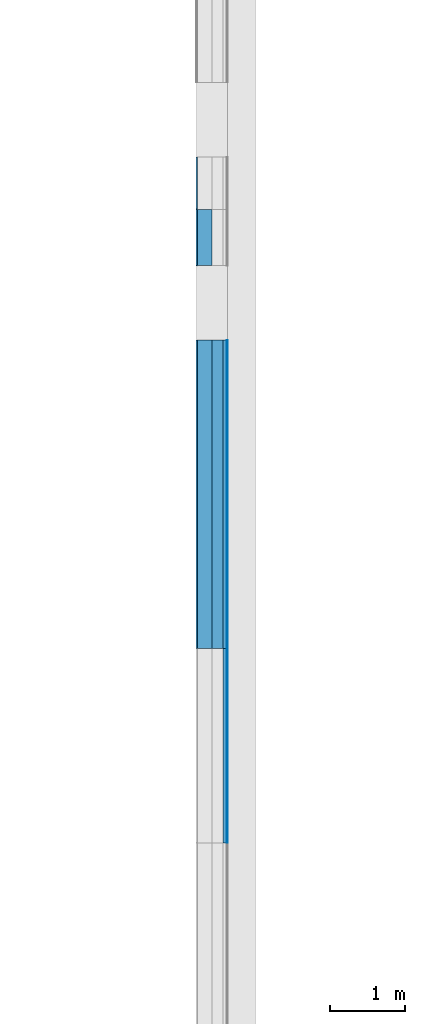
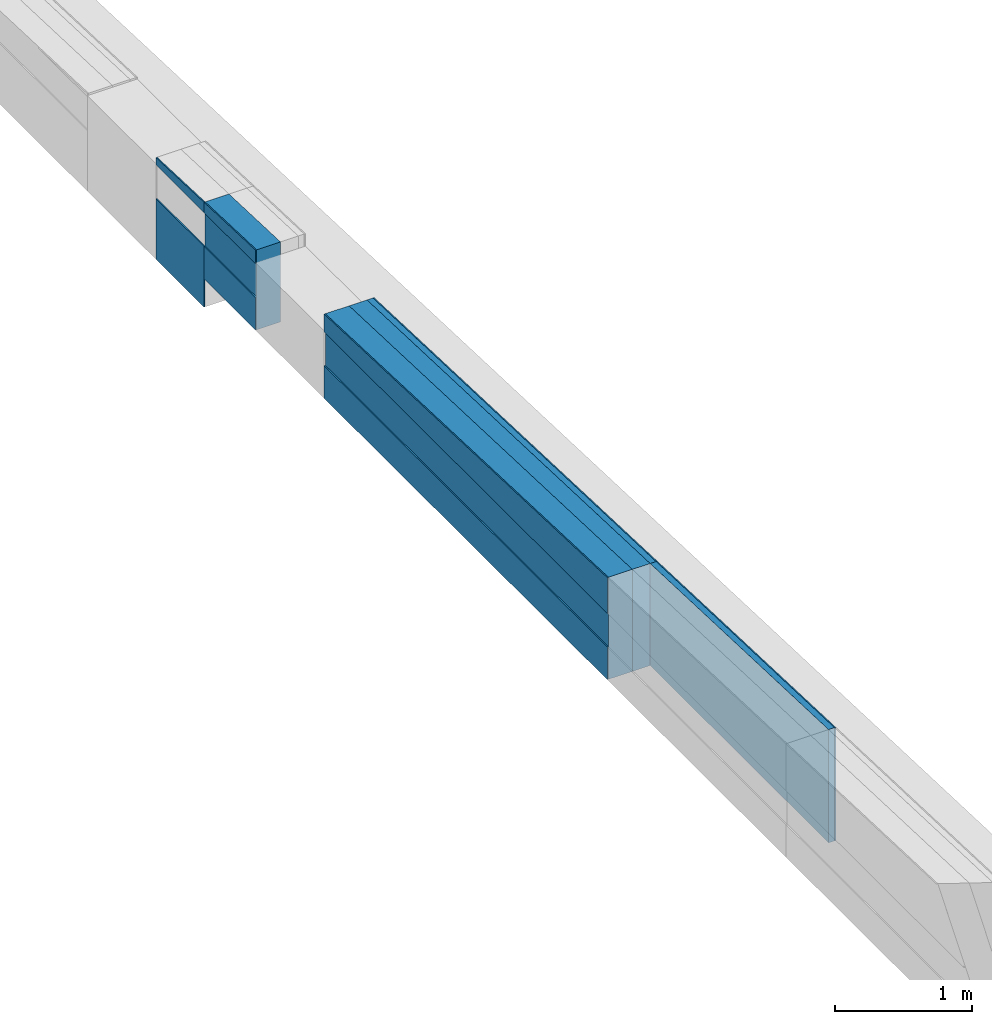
# One storey, part 8 of 17: 10 building element parts, 4 elements without a shape of their own.
"""IFC2X3 building model written with IfcOpenShell, lengths in millimetres."""

from ifc_helpers import new_model, entity, si_unit, converted_unit, derived_unit, money_unit, direction, frame, origin_with_axes, place, context, subcontext, project, spatial, polyline, outline, extrude, boolean, faceted_brep, material, type_object, element, aggregate, save


model = new_model("IFC2X3")

# Units and contexts
model_context = context("Model", 3, precision=0.01, world=origin_with_axes(), true_north=direction((0.0, 1.0)))
body_context = subcontext(model_context, "Body", "Model", "MODEL_VIEW")
ifc_project = project(units=[si_unit("LENGTHUNIT", "METRE", prefix="MILLI"), si_unit("AREAUNIT", "SQUARE_METRE"), si_unit("VOLUMEUNIT", "CUBIC_METRE"), converted_unit("PLANEANGLEUNIT", "DEGREE", entity("IfcPlaneAngleMeasure", 0.0174532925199), si_unit("PLANEANGLEUNIT", "RADIAN"), dimensions=[0, 0, 0, 0, 0, 0, 0]), si_unit("SOLIDANGLEUNIT", "STERADIAN"), money_unit("EUR"), converted_unit("TIMEUNIT", "Year", entity("IfcTimeMeasure", 31556926.0), si_unit("TIMEUNIT", "SECOND"), dimensions=[0, 0, 1, 0, 0, 0, 0]), si_unit("MASSUNIT", "GRAM", prefix="KILO"), si_unit("THERMODYNAMICTEMPERATUREUNIT", "DEGREE_CELSIUS"), si_unit("LUMINOUSINTENSITYUNIT", "LUMEN"), si_unit("ENERGYUNIT", "JOULE", prefix="MEGA"), derived_unit("THERMALCONDUCTANCEUNIT", [(si_unit("POWERUNIT", "WATT"), 1), (si_unit("LENGTHUNIT", "METRE"), -1), (si_unit("THERMODYNAMICTEMPERATUREUNIT", "KELVIN"), -1)]), derived_unit("SPECIFICHEATCAPACITYUNIT", [(si_unit("ENERGYUNIT", "JOULE"), 1), (si_unit("MASSUNIT", "GRAM", prefix="KILO"), -1), (si_unit("THERMODYNAMICTEMPERATUREUNIT", "KELVIN"), -1)]), derived_unit("MASSDENSITYUNIT", [(si_unit("MASSUNIT", "GRAM", prefix="KILO"), 1), (si_unit("VOLUMEUNIT", "CUBIC_METRE"), -1)])], contexts=[model_context])

# Site, building, storey
site_placement = place(None, origin_with_axes())
site = spatial("IfcSite", under=ifc_project, at=site_placement, Name="Puškini 31, Narva", CompositionType="ELEMENT")
building_placement = place(site_placement, origin_with_axes())
building = spatial("IfcBuilding", under=site, at=building_placement, Name="Narva Riigigümnaasium", CompositionType="ELEMENT")
storey_placement = place(building_placement, frame((0.0, 0.0, -6800.0), z_axis=(0.0, 0.0, 1.0), x_axis=(1.0, 0.0, 0.0)))
storey = spatial("IfcBuildingStorey", under=building, at=storey_placement, Name="0.korrus -6.8", CompositionType="ELEMENT", Elevation=-6800.0)

# Wall, building element parts
wall_type = type_object("IfcWallType", Name="G-VS-02 420", PredefinedType="NOTDEFINED")
wall_1_placement = place(storey_placement, frame((54200.000001, 164985.151272, 4880.0), z_axis=(0.0, 0.0, 1.0), x_axis=(0.0, -1.0, 0.0)))
wall_1 = element("IfcWall", 1, at=wall_1_placement, inside=storey, type_object=wall_type, Name="Sisesein")
ifc_material_1 = material(Name="Salto-PIR soojustus")
building_element_part_1_placement = place(wall_1_placement, origin_with_axes())
building_element_part_1 = element("IfcBuildingElementPart", 2, at=building_element_part_1_placement, material=ifc_material_1, Name="Salto-PIR soojustus", context=body_context, shape_type="CSG", body=[
    boolean("DIFFERENCE", boolean("DIFFERENCE", boolean("DIFFERENCE", boolean("DIFFERENCE", boolean("DIFFERENCE", boolean("DIFFERENCE", extrude(outline(polyline([(0.0, 150.0), (2600.0, 150.0), (2600.0, 200.0), (0.0, 200.0), (0.0, 150.0)])), origin_with_axes(), (0.0, 0.0, 1.0), 1045.10193144), faceted_brep([(0.0, -200.0, 590.0), (2600.0, -200.0, 590.0), (2600.0, -200.0, 290.0), (0.0, -200.0, 290.0), (0.0, -210.0, 590.0), (2600.0, -210.0, 590.0), (2600.0, -210.0, 290.0), (0.0, -210.0, 290.0)], [[[0, 1, 2, 3]], [[1, 0, 4, 5]], [[1, 5, 6, 2]], [[7, 3, 2, 6]], [[4, 0, 3, 7]], [[5, 4, 7, 6]]])), faceted_brep([(2600.0, -200.0, 1006.91214492), (0.0, -200.0, 907.384814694), (0.0, -200.0, 1045.10193144), (2600.0, -200.0, 1045.10193144), (0.0, -210.0, 907.384814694), (2600.0, -210.0, 1006.91214492), (0.0, -210.0, 1045.10193144), (2600.0, -210.0, 1045.10193144)], [[[0, 1, 2, 3]], [[4, 1, 0, 5]], [[1, 4, 6, 2]], [[2, 6, 7, 3]], [[5, 0, 3, 7]], [[4, 5, 7, 6]]])), faceted_brep([(2600.0, 0.0, 1006.91214492), (0.0, 0.0, 907.384814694), (0.0, 0.0, 1045.10193144), (2600.0, 0.0, 1045.10193144), (0.0, -200.0, 907.384814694), (2600.0, -200.0, 1006.91214492), (0.0, -200.0, 1045.10193144), (2600.0, -200.0, 1045.10193144)], [[[0, 1, 2, 3]], [[4, 1, 0, 5]], [[1, 4, 6, 2]], [[2, 6, 7, 3]], [[5, 0, 3, 7]], [[4, 5, 7, 6]]])), faceted_brep([(2600.0, 150.0, 1006.91214492), (0.0, 150.0, 907.384814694), (0.0, 150.0, 1045.10193144), (2600.0, 150.0, 1045.10193144), (0.0, 0.0, 907.384814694), (2600.0, 0.0, 1006.91214492), (0.0, 0.0, 1045.10193144), (2600.0, 0.0, 1045.10193144)], [[[0, 1, 2, 3]], [[4, 1, 0, 5]], [[1, 4, 6, 2]], [[2, 6, 7, 3]], [[5, 0, 3, 7]], [[4, 5, 7, 6]]])), faceted_brep([(2600.0, 200.0, 1006.91214492), (0.0, 200.0, 907.384814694), (0.0, 200.0, 1045.10193144), (2600.0, 200.0, 1045.10193144), (0.0, 150.0, 907.384814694), (2600.0, 150.0, 1006.91214492), (0.0, 150.0, 1045.10193144), (2600.0, 150.0, 1045.10193144)], [[[0, 1, 2, 3]], [[4, 1, 0, 5]], [[1, 4, 6, 2]], [[2, 6, 7, 3]], [[5, 0, 3, 7]], [[4, 5, 7, 6]]])), faceted_brep([(2600.0, 210.0, 1006.91214492), (0.0, 210.0, 907.384814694), (0.0, 210.0, 1045.10193144), (2600.0, 210.0, 1045.10193144), (0.0, 200.0, 907.384814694), (2600.0, 200.0, 1006.91214492), (0.0, 200.0, 1045.10193144), (2600.0, 200.0, 1045.10193144)], [[[0, 1, 2, 3]], [[4, 1, 0, 5]], [[1, 4, 6, 2]], [[2, 6, 7, 3]], [[5, 0, 3, 7]], [[4, 5, 7, 6]]])),
])
ifc_material_2 = material(Name="Krohv")
building_element_part_2_placement = place(wall_1_placement, origin_with_axes())
building_element_part_2 = element("IfcBuildingElementPart", 3, at=building_element_part_2_placement, material=ifc_material_2, Name="Krohv", context=body_context, shape_type="CSG", body=[
    boolean("DIFFERENCE", boolean("DIFFERENCE", boolean("DIFFERENCE", boolean("DIFFERENCE", boolean("DIFFERENCE", boolean("DIFFERENCE", extrude(outline(polyline([(0.0, 200.0), (2600.0, 200.0), (2600.0, 210.0), (0.0, 210.0), (0.0, 200.0)])), origin_with_axes(), (0.0, 0.0, 1.0), 1045.10193144), faceted_brep([(0.0, -200.0, 590.0), (2600.0, -200.0, 590.0), (2600.0, -200.0, 290.0), (0.0, -200.0, 290.0), (0.0, -210.0, 590.0), (2600.0, -210.0, 590.0), (2600.0, -210.0, 290.0), (0.0, -210.0, 290.0)], [[[0, 1, 2, 3]], [[1, 0, 4, 5]], [[1, 5, 6, 2]], [[7, 3, 2, 6]], [[4, 0, 3, 7]], [[5, 4, 7, 6]]])), faceted_brep([(2600.0, -200.0, 1006.91214492), (0.0, -200.0, 907.384814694), (0.0, -200.0, 1045.10193144), (2600.0, -200.0, 1045.10193144), (0.0, -210.0, 907.384814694), (2600.0, -210.0, 1006.91214492), (0.0, -210.0, 1045.10193144), (2600.0, -210.0, 1045.10193144)], [[[0, 1, 2, 3]], [[4, 1, 0, 5]], [[1, 4, 6, 2]], [[2, 6, 7, 3]], [[5, 0, 3, 7]], [[4, 5, 7, 6]]])), faceted_brep([(2600.0, 0.0, 1006.91214492), (0.0, 0.0, 907.384814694), (0.0, 0.0, 1045.10193144), (2600.0, 0.0, 1045.10193144), (0.0, -200.0, 907.384814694), (2600.0, -200.0, 1006.91214492), (0.0, -200.0, 1045.10193144), (2600.0, -200.0, 1045.10193144)], [[[0, 1, 2, 3]], [[4, 1, 0, 5]], [[1, 4, 6, 2]], [[2, 6, 7, 3]], [[5, 0, 3, 7]], [[4, 5, 7, 6]]])), faceted_brep([(2600.0, 150.0, 1006.91214492), (0.0, 150.0, 907.384814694), (0.0, 150.0, 1045.10193144), (2600.0, 150.0, 1045.10193144), (0.0, 0.0, 907.384814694), (2600.0, 0.0, 1006.91214492), (0.0, 0.0, 1045.10193144), (2600.0, 0.0, 1045.10193144)], [[[0, 1, 2, 3]], [[4, 1, 0, 5]], [[1, 4, 6, 2]], [[2, 6, 7, 3]], [[5, 0, 3, 7]], [[4, 5, 7, 6]]])), faceted_brep([(2600.0, 200.0, 1006.91214492), (0.0, 200.0, 907.384814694), (0.0, 200.0, 1045.10193144), (2600.0, 200.0, 1045.10193144), (0.0, 150.0, 907.384814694), (2600.0, 150.0, 1006.91214492), (0.0, 150.0, 1045.10193144), (2600.0, 150.0, 1045.10193144)], [[[0, 1, 2, 3]], [[4, 1, 0, 5]], [[1, 4, 6, 2]], [[2, 6, 7, 3]], [[5, 0, 3, 7]], [[4, 5, 7, 6]]])), faceted_brep([(2600.0, 210.0, 1006.91214492), (0.0, 210.0, 907.384814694), (0.0, 210.0, 1045.10193144), (2600.0, 210.0, 1045.10193144), (0.0, 200.0, 907.384814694), (2600.0, 200.0, 1006.91214492), (0.0, 200.0, 1045.10193144), (2600.0, 200.0, 1045.10193144)], [[[0, 1, 2, 3]], [[4, 1, 0, 5]], [[1, 4, 6, 2]], [[2, 6, 7, 3]], [[5, 0, 3, 7]], [[4, 5, 7, 6]]])),
])
aggregate(wall_1, [building_element_part_1, building_element_part_2])

wall_2_placement = place(storey_placement, frame((54200.000001, 169110.151272, 4880.0), z_axis=(0.0, 0.0, 1.0), x_axis=(0.0, -1.0, 0.0)))
wall_2 = element("IfcWall", 4, at=wall_2_placement, inside=storey, type_object=wall_type, Name="Sisesein")
ifc_material_3 = material(Name="Salto-siseviimistlus")
building_element_part_3_placement = place(wall_2_placement, origin_with_axes())
building_element_part_3 = element("IfcBuildingElementPart", 5, at=building_element_part_3_placement, material=ifc_material_3, Name="Salto-siseviimistlus", context=body_context, shape_type="CSG", body=[
    boolean("DIFFERENCE", boolean("DIFFERENCE", boolean("DIFFERENCE", boolean("DIFFERENCE", boolean("DIFFERENCE", boolean("DIFFERENCE", extrude(outline(polyline([(0.0, -210.0), (4125.0, -210.0), (4125.0, -200.0), (0.0, -200.0), (0.0, -210.0)])), origin_with_axes(), (0.0, 0.0, 1.0), 942.518463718), faceted_brep([(0.0, -200.0, 590.0), (4125.0, -200.0, 590.0), (4125.0, -200.0, 290.0), (0.0, -200.0, 290.0), (0.0, -210.0, 590.0), (4125.0, -210.0, 590.0), (4125.0, -210.0, 290.0), (0.0, -210.0, 290.0)], [[[0, 1, 2, 3]], [[1, 0, 4, 5]], [[1, 5, 6, 2]], [[7, 3, 2, 6]], [[4, 0, 3, 7]], [[5, 4, 7, 6]]])), faceted_brep([(4125.0, -200.0, 907.384814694), (0.0, -200.0, 749.480877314), (0.0, -200.0, 942.518463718), (4125.0, -200.0, 942.518463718), (0.0, -210.0, 749.480877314), (4125.0, -210.0, 907.384814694), (0.0, -210.0, 942.518463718), (4125.0, -210.0, 942.518463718)], [[[0, 1, 2, 3]], [[4, 1, 0, 5]], [[1, 4, 6, 2]], [[2, 6, 7, 3]], [[5, 0, 3, 7]], [[4, 5, 7, 6]]])), faceted_brep([(4125.0, 0.0, 907.384814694), (0.0, 0.0, 749.480877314), (0.0, 0.0, 942.518463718), (4125.0, 0.0, 942.518463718), (0.0, -200.0, 749.480877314), (4125.0, -200.0, 907.384814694), (0.0, -200.0, 942.518463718), (4125.0, -200.0, 942.518463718)], [[[0, 1, 2, 3]], [[4, 1, 0, 5]], [[1, 4, 6, 2]], [[2, 6, 7, 3]], [[5, 0, 3, 7]], [[4, 5, 7, 6]]])), faceted_brep([(4125.0, 150.0, 907.384814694), (0.0, 150.0, 749.480877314), (0.0, 150.0, 942.518463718), (4125.0, 150.0, 942.518463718), (0.0, 0.0, 749.480877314), (4125.0, 0.0, 907.384814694), (0.0, 0.0, 942.518463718), (4125.0, 0.0, 942.518463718)], [[[0, 1, 2, 3]], [[4, 1, 0, 5]], [[1, 4, 6, 2]], [[2, 6, 7, 3]], [[5, 0, 3, 7]], [[4, 5, 7, 6]]])), faceted_brep([(4125.0, 200.0, 907.384814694), (0.0, 200.0, 749.480877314), (0.0, 200.0, 942.518463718), (4125.0, 200.0, 942.518463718), (0.0, 150.0, 749.480877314), (4125.0, 150.0, 907.384814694), (0.0, 150.0, 942.518463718), (4125.0, 150.0, 942.518463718)], [[[0, 1, 2, 3]], [[4, 1, 0, 5]], [[1, 4, 6, 2]], [[2, 6, 7, 3]], [[5, 0, 3, 7]], [[4, 5, 7, 6]]])), faceted_brep([(4125.0, 210.0, 907.384814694), (0.0, 210.0, 749.480877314), (0.0, 210.0, 942.518463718), (4125.0, 210.0, 942.518463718), (0.0, 200.0, 749.480877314), (4125.0, 200.0, 907.384814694), (0.0, 200.0, 942.518463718), (4125.0, 200.0, 942.518463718)], [[[0, 1, 2, 3]], [[4, 1, 0, 5]], [[1, 4, 6, 2]], [[2, 6, 7, 3]], [[5, 0, 3, 7]], [[4, 5, 7, 6]]])),
])
ifc_material_4 = material(Name="Betoon element")
building_element_part_4_placement = place(wall_2_placement, origin_with_axes())
building_element_part_4 = element("IfcBuildingElementPart", 6, at=building_element_part_4_placement, material=ifc_material_4, Name="Betoon element", context=body_context, shape_type="CSG", body=[
    boolean("DIFFERENCE", boolean("DIFFERENCE", boolean("DIFFERENCE", boolean("DIFFERENCE", boolean("DIFFERENCE", boolean("DIFFERENCE", extrude(outline(polyline([(0.0, -200.0), (4125.0, -200.0), (4125.0, 0.0), (0.0, 0.0), (0.0, -200.0)])), origin_with_axes(), (0.0, 0.0, 1.0), 942.518463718), faceted_brep([(0.0, -200.0, 590.0), (4125.0, -200.0, 590.0), (4125.0, -200.0, 290.0), (0.0, -200.0, 290.0), (0.0, -210.0, 590.0), (4125.0, -210.0, 590.0), (4125.0, -210.0, 290.0), (0.0, -210.0, 290.0)], [[[0, 1, 2, 3]], [[1, 0, 4, 5]], [[1, 5, 6, 2]], [[7, 3, 2, 6]], [[4, 0, 3, 7]], [[5, 4, 7, 6]]])), faceted_brep([(4125.0, -200.0, 907.384814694), (0.0, -200.0, 749.480877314), (0.0, -200.0, 942.518463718), (4125.0, -200.0, 942.518463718), (0.0, -210.0, 749.480877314), (4125.0, -210.0, 907.384814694), (0.0, -210.0, 942.518463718), (4125.0, -210.0, 942.518463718)], [[[0, 1, 2, 3]], [[4, 1, 0, 5]], [[1, 4, 6, 2]], [[2, 6, 7, 3]], [[5, 0, 3, 7]], [[4, 5, 7, 6]]])), faceted_brep([(4125.0, 0.0, 907.384814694), (0.0, 0.0, 749.480877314), (0.0, 0.0, 942.518463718), (4125.0, 0.0, 942.518463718), (0.0, -200.0, 749.480877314), (4125.0, -200.0, 907.384814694), (0.0, -200.0, 942.518463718), (4125.0, -200.0, 942.518463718)], [[[0, 1, 2, 3]], [[4, 1, 0, 5]], [[1, 4, 6, 2]], [[2, 6, 7, 3]], [[5, 0, 3, 7]], [[4, 5, 7, 6]]])), faceted_brep([(4125.0, 150.0, 907.384814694), (0.0, 150.0, 749.480877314), (0.0, 150.0, 942.518463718), (4125.0, 150.0, 942.518463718), (0.0, 0.0, 749.480877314), (4125.0, 0.0, 907.384814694), (0.0, 0.0, 942.518463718), (4125.0, 0.0, 942.518463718)], [[[0, 1, 2, 3]], [[4, 1, 0, 5]], [[1, 4, 6, 2]], [[2, 6, 7, 3]], [[5, 0, 3, 7]], [[4, 5, 7, 6]]])), faceted_brep([(4125.0, 200.0, 907.384814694), (0.0, 200.0, 749.480877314), (0.0, 200.0, 942.518463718), (4125.0, 200.0, 942.518463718), (0.0, 150.0, 749.480877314), (4125.0, 150.0, 907.384814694), (0.0, 150.0, 942.518463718), (4125.0, 150.0, 942.518463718)], [[[0, 1, 2, 3]], [[4, 1, 0, 5]], [[1, 4, 6, 2]], [[2, 6, 7, 3]], [[5, 0, 3, 7]], [[4, 5, 7, 6]]])), faceted_brep([(4125.0, 210.0, 907.384814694), (0.0, 210.0, 749.480877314), (0.0, 210.0, 942.518463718), (4125.0, 210.0, 942.518463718), (0.0, 200.0, 749.480877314), (4125.0, 200.0, 907.384814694), (0.0, 200.0, 942.518463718), (4125.0, 200.0, 942.518463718)], [[[0, 1, 2, 3]], [[4, 1, 0, 5]], [[1, 4, 6, 2]], [[2, 6, 7, 3]], [[5, 0, 3, 7]], [[4, 5, 7, 6]]])),
])
building_element_part_5_placement = place(wall_2_placement, origin_with_axes())
building_element_part_5 = element("IfcBuildingElementPart", 7, at=building_element_part_5_placement, material=ifc_material_1, Name="Salto-PIR soojustus", context=body_context, shape_type="CSG", body=[
    boolean("DIFFERENCE", boolean("DIFFERENCE", boolean("DIFFERENCE", boolean("DIFFERENCE", boolean("DIFFERENCE", boolean("DIFFERENCE", extrude(outline(polyline([(0.0, 0.0), (4125.0, 0.0), (4125.0, 150.0), (0.0, 150.0), (0.0, 0.0)])), origin_with_axes(), (0.0, 0.0, 1.0), 942.518463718), faceted_brep([(0.0, -200.0, 590.0), (4125.0, -200.0, 590.0), (4125.0, -200.0, 290.0), (0.0, -200.0, 290.0), (0.0, -210.0, 590.0), (4125.0, -210.0, 590.0), (4125.0, -210.0, 290.0), (0.0, -210.0, 290.0)], [[[0, 1, 2, 3]], [[1, 0, 4, 5]], [[1, 5, 6, 2]], [[7, 3, 2, 6]], [[4, 0, 3, 7]], [[5, 4, 7, 6]]])), faceted_brep([(4125.0, -200.0, 907.384814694), (0.0, -200.0, 749.480877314), (0.0, -200.0, 942.518463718), (4125.0, -200.0, 942.518463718), (0.0, -210.0, 749.480877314), (4125.0, -210.0, 907.384814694), (0.0, -210.0, 942.518463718), (4125.0, -210.0, 942.518463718)], [[[0, 1, 2, 3]], [[4, 1, 0, 5]], [[1, 4, 6, 2]], [[2, 6, 7, 3]], [[5, 0, 3, 7]], [[4, 5, 7, 6]]])), faceted_brep([(4125.0, 0.0, 907.384814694), (0.0, 0.0, 749.480877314), (0.0, 0.0, 942.518463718), (4125.0, 0.0, 942.518463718), (0.0, -200.0, 749.480877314), (4125.0, -200.0, 907.384814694), (0.0, -200.0, 942.518463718), (4125.0, -200.0, 942.518463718)], [[[0, 1, 2, 3]], [[4, 1, 0, 5]], [[1, 4, 6, 2]], [[2, 6, 7, 3]], [[5, 0, 3, 7]], [[4, 5, 7, 6]]])), faceted_brep([(4125.0, 150.0, 907.384814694), (0.0, 150.0, 749.480877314), (0.0, 150.0, 942.518463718), (4125.0, 150.0, 942.518463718), (0.0, 0.0, 749.480877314), (4125.0, 0.0, 907.384814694), (0.0, 0.0, 942.518463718), (4125.0, 0.0, 942.518463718)], [[[0, 1, 2, 3]], [[4, 1, 0, 5]], [[1, 4, 6, 2]], [[2, 6, 7, 3]], [[5, 0, 3, 7]], [[4, 5, 7, 6]]])), faceted_brep([(4125.0, 200.0, 907.384814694), (0.0, 200.0, 749.480877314), (0.0, 200.0, 942.518463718), (4125.0, 200.0, 942.518463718), (0.0, 150.0, 749.480877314), (4125.0, 150.0, 907.384814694), (0.0, 150.0, 942.518463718), (4125.0, 150.0, 942.518463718)], [[[0, 1, 2, 3]], [[4, 1, 0, 5]], [[1, 4, 6, 2]], [[2, 6, 7, 3]], [[5, 0, 3, 7]], [[4, 5, 7, 6]]])), faceted_brep([(4125.0, 210.0, 907.384814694), (0.0, 210.0, 749.480877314), (0.0, 210.0, 942.518463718), (4125.0, 210.0, 942.518463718), (0.0, 200.0, 749.480877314), (4125.0, 200.0, 907.384814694), (0.0, 200.0, 942.518463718), (4125.0, 200.0, 942.518463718)], [[[0, 1, 2, 3]], [[4, 1, 0, 5]], [[1, 4, 6, 2]], [[2, 6, 7, 3]], [[5, 0, 3, 7]], [[4, 5, 7, 6]]])),
])
building_element_part_6_placement = place(wall_2_placement, origin_with_axes())
building_element_part_6 = element("IfcBuildingElementPart", 8, at=building_element_part_6_placement, material=ifc_material_1, Name="Salto-PIR soojustus", context=body_context, shape_type="CSG", body=[
    boolean("DIFFERENCE", boolean("DIFFERENCE", boolean("DIFFERENCE", boolean("DIFFERENCE", boolean("DIFFERENCE", boolean("DIFFERENCE", extrude(outline(polyline([(0.0, 150.0), (4125.0, 150.0), (4125.0, 200.0), (0.0, 200.0), (0.0, 150.0)])), origin_with_axes(), (0.0, 0.0, 1.0), 942.518463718), faceted_brep([(0.0, -200.0, 590.0), (4125.0, -200.0, 590.0), (4125.0, -200.0, 290.0), (0.0, -200.0, 290.0), (0.0, -210.0, 590.0), (4125.0, -210.0, 590.0), (4125.0, -210.0, 290.0), (0.0, -210.0, 290.0)], [[[0, 1, 2, 3]], [[1, 0, 4, 5]], [[1, 5, 6, 2]], [[7, 3, 2, 6]], [[4, 0, 3, 7]], [[5, 4, 7, 6]]])), faceted_brep([(4125.0, -200.0, 907.384814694), (0.0, -200.0, 749.480877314), (0.0, -200.0, 942.518463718), (4125.0, -200.0, 942.518463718), (0.0, -210.0, 749.480877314), (4125.0, -210.0, 907.384814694), (0.0, -210.0, 942.518463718), (4125.0, -210.0, 942.518463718)], [[[0, 1, 2, 3]], [[4, 1, 0, 5]], [[1, 4, 6, 2]], [[2, 6, 7, 3]], [[5, 0, 3, 7]], [[4, 5, 7, 6]]])), faceted_brep([(4125.0, 0.0, 907.384814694), (0.0, 0.0, 749.480877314), (0.0, 0.0, 942.518463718), (4125.0, 0.0, 942.518463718), (0.0, -200.0, 749.480877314), (4125.0, -200.0, 907.384814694), (0.0, -200.0, 942.518463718), (4125.0, -200.0, 942.518463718)], [[[0, 1, 2, 3]], [[4, 1, 0, 5]], [[1, 4, 6, 2]], [[2, 6, 7, 3]], [[5, 0, 3, 7]], [[4, 5, 7, 6]]])), faceted_brep([(4125.0, 150.0, 907.384814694), (0.0, 150.0, 749.480877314), (0.0, 150.0, 942.518463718), (4125.0, 150.0, 942.518463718), (0.0, 0.0, 749.480877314), (4125.0, 0.0, 907.384814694), (0.0, 0.0, 942.518463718), (4125.0, 0.0, 942.518463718)], [[[0, 1, 2, 3]], [[4, 1, 0, 5]], [[1, 4, 6, 2]], [[2, 6, 7, 3]], [[5, 0, 3, 7]], [[4, 5, 7, 6]]])), faceted_brep([(4125.0, 200.0, 907.384814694), (0.0, 200.0, 749.480877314), (0.0, 200.0, 942.518463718), (4125.0, 200.0, 942.518463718), (0.0, 150.0, 749.480877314), (4125.0, 150.0, 907.384814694), (0.0, 150.0, 942.518463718), (4125.0, 150.0, 942.518463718)], [[[0, 1, 2, 3]], [[4, 1, 0, 5]], [[1, 4, 6, 2]], [[2, 6, 7, 3]], [[5, 0, 3, 7]], [[4, 5, 7, 6]]])), faceted_brep([(4125.0, 210.0, 907.384814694), (0.0, 210.0, 749.480877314), (0.0, 210.0, 942.518463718), (4125.0, 210.0, 942.518463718), (0.0, 200.0, 749.480877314), (4125.0, 200.0, 907.384814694), (0.0, 200.0, 942.518463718), (4125.0, 200.0, 942.518463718)], [[[0, 1, 2, 3]], [[4, 1, 0, 5]], [[1, 4, 6, 2]], [[2, 6, 7, 3]], [[5, 0, 3, 7]], [[4, 5, 7, 6]]])),
])
building_element_part_7_placement = place(wall_2_placement, origin_with_axes())
building_element_part_7 = element("IfcBuildingElementPart", 9, at=building_element_part_7_placement, material=ifc_material_2, Name="Krohv", context=body_context, shape_type="CSG", body=[
    boolean("DIFFERENCE", boolean("DIFFERENCE", boolean("DIFFERENCE", boolean("DIFFERENCE", boolean("DIFFERENCE", boolean("DIFFERENCE", extrude(outline(polyline([(0.0, 200.0), (4125.0, 200.0), (4125.0, 210.0), (0.0, 210.0), (0.0, 200.0)])), origin_with_axes(), (0.0, 0.0, 1.0), 942.518463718), faceted_brep([(0.0, -200.0, 590.0), (4125.0, -200.0, 590.0), (4125.0, -200.0, 290.0), (0.0, -200.0, 290.0), (0.0, -210.0, 590.0), (4125.0, -210.0, 590.0), (4125.0, -210.0, 290.0), (0.0, -210.0, 290.0)], [[[0, 1, 2, 3]], [[1, 0, 4, 5]], [[1, 5, 6, 2]], [[7, 3, 2, 6]], [[4, 0, 3, 7]], [[5, 4, 7, 6]]])), faceted_brep([(4125.0, -200.0, 907.384814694), (0.0, -200.0, 749.480877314), (0.0, -200.0, 942.518463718), (4125.0, -200.0, 942.518463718), (0.0, -210.0, 749.480877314), (4125.0, -210.0, 907.384814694), (0.0, -210.0, 942.518463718), (4125.0, -210.0, 942.518463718)], [[[0, 1, 2, 3]], [[4, 1, 0, 5]], [[1, 4, 6, 2]], [[2, 6, 7, 3]], [[5, 0, 3, 7]], [[4, 5, 7, 6]]])), faceted_brep([(4125.0, 0.0, 907.384814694), (0.0, 0.0, 749.480877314), (0.0, 0.0, 942.518463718), (4125.0, 0.0, 942.518463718), (0.0, -200.0, 749.480877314), (4125.0, -200.0, 907.384814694), (0.0, -200.0, 942.518463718), (4125.0, -200.0, 942.518463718)], [[[0, 1, 2, 3]], [[4, 1, 0, 5]], [[1, 4, 6, 2]], [[2, 6, 7, 3]], [[5, 0, 3, 7]], [[4, 5, 7, 6]]])), faceted_brep([(4125.0, 150.0, 907.384814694), (0.0, 150.0, 749.480877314), (0.0, 150.0, 942.518463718), (4125.0, 150.0, 942.518463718), (0.0, 0.0, 749.480877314), (4125.0, 0.0, 907.384814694), (0.0, 0.0, 942.518463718), (4125.0, 0.0, 942.518463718)], [[[0, 1, 2, 3]], [[4, 1, 0, 5]], [[1, 4, 6, 2]], [[2, 6, 7, 3]], [[5, 0, 3, 7]], [[4, 5, 7, 6]]])), faceted_brep([(4125.0, 200.0, 907.384814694), (0.0, 200.0, 749.480877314), (0.0, 200.0, 942.518463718), (4125.0, 200.0, 942.518463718), (0.0, 150.0, 749.480877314), (4125.0, 150.0, 907.384814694), (0.0, 150.0, 942.518463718), (4125.0, 150.0, 942.518463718)], [[[0, 1, 2, 3]], [[4, 1, 0, 5]], [[1, 4, 6, 2]], [[2, 6, 7, 3]], [[5, 0, 3, 7]], [[4, 5, 7, 6]]])), faceted_brep([(4125.0, 210.0, 907.384814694), (0.0, 210.0, 749.480877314), (0.0, 210.0, 942.518463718), (4125.0, 210.0, 942.518463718), (0.0, 200.0, 749.480877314), (4125.0, 200.0, 907.384814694), (0.0, 200.0, 942.518463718), (4125.0, 200.0, 942.518463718)], [[[0, 1, 2, 3]], [[4, 1, 0, 5]], [[1, 4, 6, 2]], [[2, 6, 7, 3]], [[5, 0, 3, 7]], [[4, 5, 7, 6]]])),
])
aggregate(wall_2, [building_element_part_3, building_element_part_4, building_element_part_5, building_element_part_6, building_element_part_7])

# Wall, building element part
wall_3_placement = place(storey_placement, frame((54200.000001, 171560.151272, 4630.0), z_axis=(0.0, 0.0, 1.0), x_axis=(0.0, -1.0, 0.0)))
wall_3 = element("IfcWall", 10, at=wall_3_placement, inside=storey, type_object=wall_type, Name="Sisesein")
building_element_part_8_placement = place(wall_3_placement, origin_with_axes())
building_element_part_8 = element("IfcBuildingElementPart", 11, at=building_element_part_8_placement, material=ifc_material_3, Name="Salto-siseviimistlus", context=body_context, shape_type="CSG", body=[
    boolean("DIFFERENCE", boolean("DIFFERENCE", boolean("DIFFERENCE", boolean("DIFFERENCE", boolean("DIFFERENCE", boolean("DIFFERENCE", extrude(outline(polyline([(0.0, -210.0), (700.151271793, -210.0), (700.151271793, -200.0), (0.0, -200.0), (0.0, -210.0)])), origin_with_axes(), (0.0, 0.0, 1.0), 1038.64326213), faceted_brep([(0.0, -200.0, 840.0), (700.151271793, -200.0, 840.0), (700.151271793, -200.0, 540.0), (0.0, -200.0, 540.0), (0.0, -210.0, 840.0), (700.151271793, -210.0, 840.0), (700.151271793, -210.0, 540.0), (0.0, -210.0, 540.0)], [[[0, 1, 2, 3]], [[1, 0, 4, 5]], [[1, 5, 6, 2]], [[7, 3, 2, 6]], [[4, 0, 3, 7]], [[5, 4, 7, 6]]])), faceted_brep([(700.151271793, -200.0, 932.497118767), (0.0, -200.0, 905.695508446), (0.0, -200.0, 1038.64326213), (700.151271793, -200.0, 1038.64326213), (0.0, -210.0, 905.695508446), (700.151271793, -210.0, 932.497118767), (0.0, -210.0, 1038.64326213), (700.151271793, -210.0, 1038.64326213)], [[[0, 1, 2, 3]], [[4, 1, 0, 5]], [[1, 4, 6, 2]], [[2, 6, 7, 3]], [[5, 0, 3, 7]], [[4, 5, 7, 6]]])), faceted_brep([(700.151271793, 0.0, 932.497118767), (0.0, 0.0, 905.695508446), (0.0, 0.0, 1038.64326213), (700.151271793, 0.0, 1038.64326213), (0.0, -200.0, 905.695508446), (700.151271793, -200.0, 932.497118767), (0.0, -200.0, 1038.64326213), (700.151271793, -200.0, 1038.64326213)], [[[0, 1, 2, 3]], [[4, 1, 0, 5]], [[1, 4, 6, 2]], [[2, 6, 7, 3]], [[5, 0, 3, 7]], [[4, 5, 7, 6]]])), faceted_brep([(700.151271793, 150.0, 932.497118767), (0.0, 150.0, 905.695508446), (0.0, 150.0, 1038.64326213), (700.151271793, 150.0, 1038.64326213), (0.0, 0.0, 905.695508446), (700.151271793, 0.0, 932.497118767), (0.0, 0.0, 1038.64326213), (700.151271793, 0.0, 1038.64326213)], [[[0, 1, 2, 3]], [[4, 1, 0, 5]], [[1, 4, 6, 2]], [[2, 6, 7, 3]], [[5, 0, 3, 7]], [[4, 5, 7, 6]]])), faceted_brep([(700.151271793, 200.0, 932.497118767), (0.0, 200.0, 905.695508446), (0.0, 200.0, 1038.64326213), (700.151271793, 200.0, 1038.64326213), (0.0, 150.0, 905.695508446), (700.151271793, 150.0, 932.497118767), (0.0, 150.0, 1038.64326213), (700.151271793, 150.0, 1038.64326213)], [[[0, 1, 2, 3]], [[4, 1, 0, 5]], [[1, 4, 6, 2]], [[2, 6, 7, 3]], [[5, 0, 3, 7]], [[4, 5, 7, 6]]])), faceted_brep([(700.151271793, 210.0, 932.497118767), (0.0, 210.0, 905.695508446), (0.0, 210.0, 1038.64326213), (700.151271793, 210.0, 1038.64326213), (0.0, 200.0, 905.695508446), (700.151271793, 200.0, 932.497118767), (0.0, 200.0, 1038.64326213), (700.151271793, 200.0, 1038.64326213)], [[[0, 1, 2, 3]], [[4, 1, 0, 5]], [[1, 4, 6, 2]], [[2, 6, 7, 3]], [[5, 0, 3, 7]], [[4, 5, 7, 6]]])),
])
aggregate(wall_3, [building_element_part_8])

# Wall, building element parts
wall_4_placement = place(storey_placement, frame((54200.000001, 170860.0, 4880.0), z_axis=(0.0, 0.0, 1.0), x_axis=(0.0, -1.0, 0.0)))
wall_4 = element("IfcWall", 12, at=wall_4_placement, inside=storey, type_object=wall_type, Name="Sisesein")
building_element_part_9_placement = place(wall_4_placement, origin_with_axes())
building_element_part_9 = element("IfcBuildingElementPart", 13, at=building_element_part_9_placement, material=ifc_material_3, Name="Salto-siseviimistlus", context=body_context, shape_type="CSG", body=[
    boolean("DIFFERENCE", boolean("DIFFERENCE", boolean("DIFFERENCE", boolean("DIFFERENCE", boolean("DIFFERENCE", boolean("DIFFERENCE", extrude(outline(polyline([(0.0, -210.0), (749.848728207, -210.0), (749.848728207, -200.0), (0.0, -200.0), (0.0, -210.0)])), origin_with_axes(), (0.0, 0.0, 1.0), 788.643262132), faceted_brep([(0.0, -200.0, 590.0), (749.848728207, -200.0, 590.0), (749.848728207, -200.0, 290.0), (0.0, -200.0, 290.0), (0.0, -210.0, 590.0), (749.848728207, -210.0, 590.0), (749.848728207, -210.0, 290.0), (0.0, -210.0, 290.0)], [[[0, 1, 2, 3]], [[1, 0, 4, 5]], [[1, 5, 6, 2]], [[7, 3, 2, 6]], [[4, 0, 3, 7]], [[5, 4, 7, 6]]])), faceted_brep([(749.848728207, -200.0, 711.201134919), (0.0, -200.0, 682.497118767), (0.0, -200.0, 788.643262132), (749.848728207, -200.0, 788.643262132), (0.0, -210.0, 682.497118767), (749.848728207, -210.0, 711.201134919), (0.0, -210.0, 788.643262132), (749.848728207, -210.0, 788.643262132)], [[[0, 1, 2, 3]], [[4, 1, 0, 5]], [[1, 4, 6, 2]], [[2, 6, 7, 3]], [[5, 0, 3, 7]], [[4, 5, 7, 6]]])), faceted_brep([(749.848728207, 0.0, 711.201134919), (0.0, 0.0, 682.497118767), (0.0, 0.0, 788.643262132), (749.848728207, 0.0, 788.643262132), (0.0, -200.0, 682.497118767), (749.848728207, -200.0, 711.201134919), (0.0, -200.0, 788.643262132), (749.848728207, -200.0, 788.643262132)], [[[0, 1, 2, 3]], [[4, 1, 0, 5]], [[1, 4, 6, 2]], [[2, 6, 7, 3]], [[5, 0, 3, 7]], [[4, 5, 7, 6]]])), faceted_brep([(749.848728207, 150.0, 711.201134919), (0.0, 150.0, 682.497118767), (0.0, 150.0, 788.643262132), (749.848728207, 150.0, 788.643262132), (0.0, 0.0, 682.497118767), (749.848728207, 0.0, 711.201134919), (0.0, 0.0, 788.643262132), (749.848728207, 0.0, 788.643262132)], [[[0, 1, 2, 3]], [[4, 1, 0, 5]], [[1, 4, 6, 2]], [[2, 6, 7, 3]], [[5, 0, 3, 7]], [[4, 5, 7, 6]]])), faceted_brep([(749.848728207, 200.0, 711.201134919), (0.0, 200.0, 682.497118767), (0.0, 200.0, 788.643262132), (749.848728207, 200.0, 788.643262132), (0.0, 150.0, 682.497118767), (749.848728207, 150.0, 711.201134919), (0.0, 150.0, 788.643262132), (749.848728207, 150.0, 788.643262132)], [[[0, 1, 2, 3]], [[4, 1, 0, 5]], [[1, 4, 6, 2]], [[2, 6, 7, 3]], [[5, 0, 3, 7]], [[4, 5, 7, 6]]])), faceted_brep([(749.848728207, 210.0, 711.201134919), (0.0, 210.0, 682.497118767), (0.0, 210.0, 788.643262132), (749.848728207, 210.0, 788.643262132), (0.0, 200.0, 682.497118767), (749.848728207, 200.0, 711.201134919), (0.0, 200.0, 788.643262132), (749.848728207, 200.0, 788.643262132)], [[[0, 1, 2, 3]], [[4, 1, 0, 5]], [[1, 4, 6, 2]], [[2, 6, 7, 3]], [[5, 0, 3, 7]], [[4, 5, 7, 6]]])),
])
building_element_part_10_placement = place(wall_4_placement, origin_with_axes())
building_element_part_10 = element("IfcBuildingElementPart", 14, at=building_element_part_10_placement, material=ifc_material_4, Name="Betoon element", context=body_context, shape_type="CSG", body=[
    boolean("DIFFERENCE", boolean("DIFFERENCE", boolean("DIFFERENCE", boolean("DIFFERENCE", boolean("DIFFERENCE", boolean("DIFFERENCE", extrude(outline(polyline([(0.0, -200.0), (749.848728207, -200.0), (749.848728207, 0.0), (0.0, 0.0), (0.0, -200.0)])), origin_with_axes(), (0.0, 0.0, 1.0), 788.643262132), faceted_brep([(0.0, -200.0, 590.0), (749.848728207, -200.0, 590.0), (749.848728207, -200.0, 290.0), (0.0, -200.0, 290.0), (0.0, -210.0, 590.0), (749.848728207, -210.0, 590.0), (749.848728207, -210.0, 290.0), (0.0, -210.0, 290.0)], [[[0, 1, 2, 3]], [[1, 0, 4, 5]], [[1, 5, 6, 2]], [[7, 3, 2, 6]], [[4, 0, 3, 7]], [[5, 4, 7, 6]]])), faceted_brep([(749.848728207, -200.0, 711.201134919), (0.0, -200.0, 682.497118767), (0.0, -200.0, 788.643262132), (749.848728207, -200.0, 788.643262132), (0.0, -210.0, 682.497118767), (749.848728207, -210.0, 711.201134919), (0.0, -210.0, 788.643262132), (749.848728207, -210.0, 788.643262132)], [[[0, 1, 2, 3]], [[4, 1, 0, 5]], [[1, 4, 6, 2]], [[2, 6, 7, 3]], [[5, 0, 3, 7]], [[4, 5, 7, 6]]])), faceted_brep([(749.848728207, 0.0, 711.201134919), (0.0, 0.0, 682.497118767), (0.0, 0.0, 788.643262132), (749.848728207, 0.0, 788.643262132), (0.0, -200.0, 682.497118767), (749.848728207, -200.0, 711.201134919), (0.0, -200.0, 788.643262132), (749.848728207, -200.0, 788.643262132)], [[[0, 1, 2, 3]], [[4, 1, 0, 5]], [[1, 4, 6, 2]], [[2, 6, 7, 3]], [[5, 0, 3, 7]], [[4, 5, 7, 6]]])), faceted_brep([(749.848728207, 150.0, 711.201134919), (0.0, 150.0, 682.497118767), (0.0, 150.0, 788.643262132), (749.848728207, 150.0, 788.643262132), (0.0, 0.0, 682.497118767), (749.848728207, 0.0, 711.201134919), (0.0, 0.0, 788.643262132), (749.848728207, 0.0, 788.643262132)], [[[0, 1, 2, 3]], [[4, 1, 0, 5]], [[1, 4, 6, 2]], [[2, 6, 7, 3]], [[5, 0, 3, 7]], [[4, 5, 7, 6]]])), faceted_brep([(749.848728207, 200.0, 711.201134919), (0.0, 200.0, 682.497118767), (0.0, 200.0, 788.643262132), (749.848728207, 200.0, 788.643262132), (0.0, 150.0, 682.497118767), (749.848728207, 150.0, 711.201134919), (0.0, 150.0, 788.643262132), (749.848728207, 150.0, 788.643262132)], [[[0, 1, 2, 3]], [[4, 1, 0, 5]], [[1, 4, 6, 2]], [[2, 6, 7, 3]], [[5, 0, 3, 7]], [[4, 5, 7, 6]]])), faceted_brep([(749.848728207, 210.0, 711.201134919), (0.0, 210.0, 682.497118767), (0.0, 210.0, 788.643262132), (749.848728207, 210.0, 788.643262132), (0.0, 200.0, 682.497118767), (749.848728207, 200.0, 711.201134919), (0.0, 200.0, 788.643262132), (749.848728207, 200.0, 788.643262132)], [[[0, 1, 2, 3]], [[4, 1, 0, 5]], [[1, 4, 6, 2]], [[2, 6, 7, 3]], [[5, 0, 3, 7]], [[4, 5, 7, 6]]])),
])
aggregate(wall_4, [building_element_part_9, building_element_part_10])

save(model, "model.ifc")
